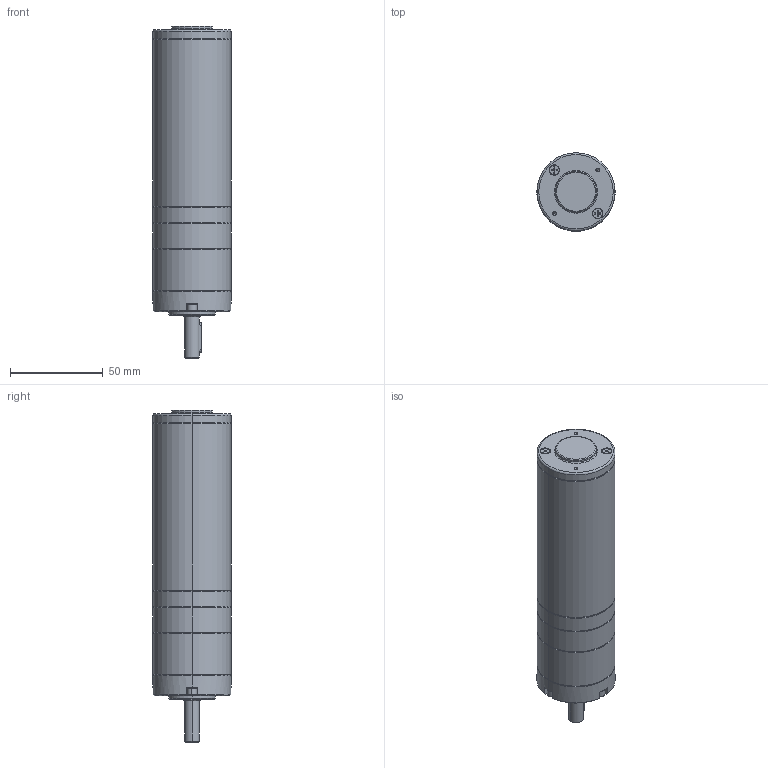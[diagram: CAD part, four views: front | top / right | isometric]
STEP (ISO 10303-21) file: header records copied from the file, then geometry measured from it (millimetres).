
FILE_DESCRIPTION (( 'STEP AP203' ), '1' );
FILE_NAME ('42ZPN衄芃媼撰熬厒.STEP', '2021-07-17T08:15:42', ( '' ), ( '' ), 'SwSTEP 2.0', 'SolidWorks 2021', '' );
FILE_SCHEMA (( 'CONFIG_CONTROL_DESIGN' ));
Length unit declared in the file: millimetre
Products named in the file (1): 42ZPN衄芃媼撰熬厒
Bounding box: 42 x 42 x 178.5 mm (x, y, z)
Volume: 211896.3 mm3; surface area: 24981.2 mm2
Topology: 1 solids, 1 shells, 230 faces, 546 edges, 336 vertices
Faces by surface type: plane 97, cylinder 73, cone 54, torus 6
Entity records: 6660 total; most frequent: CARTESIAN_POINT 1199, DIRECTION 1181, ORIENTED_EDGE 1064, EDGE_CURVE 532, AXIS2_PLACEMENT_3D 430, VERTEX_POINT 336, LINE 321, VECTOR 321
